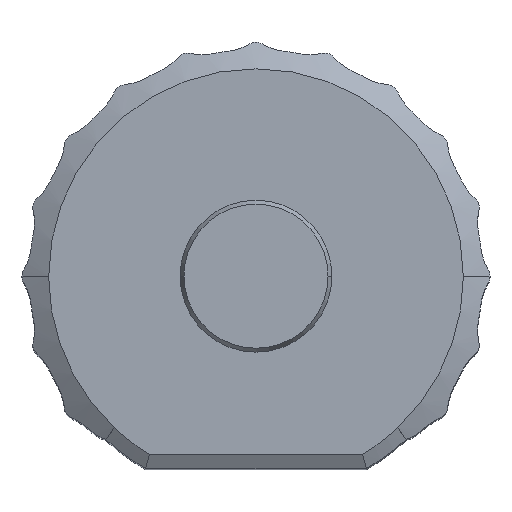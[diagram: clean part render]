
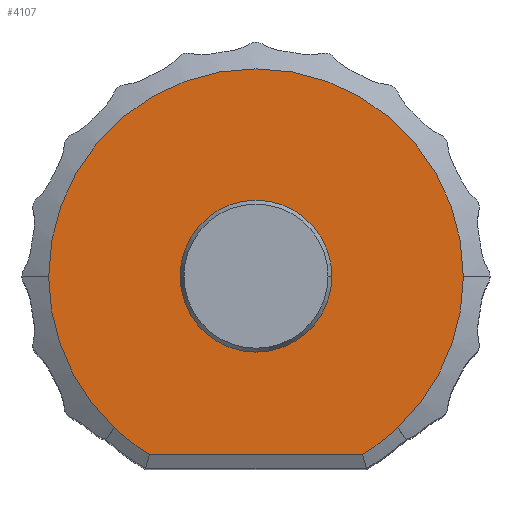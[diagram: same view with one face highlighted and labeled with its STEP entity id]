
A CAD part, top view. The second image highlights one B-rep face of the part: STEP entity #4107.
In plain terms, the highlighted planar face has unit normal (0, 0, 1).
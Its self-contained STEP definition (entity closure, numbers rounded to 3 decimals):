
#61 = DIRECTION ( 'NONE',  ( 1., 0., 0. ) ) ;
#115 = CARTESIAN_POINT ( 'NONE',  ( 4.3, 0., 0. ) ) ;
#389 = CIRCLE ( 'NONE', #428, 4.3 ) ;
#398 = FACE_BOUND ( 'NONE', #1727, .T. ) ;
#428 = AXIS2_PLACEMENT_3D ( 'NONE', #2848, #6985, #3439 ) ;
#669 = LINE ( 'NONE', #6547, #5801 ) ;
#682 = VERTEX_POINT ( 'NONE', #5720 ) ;
#686 = VECTOR ( 'NONE', #5317, 1000. ) ;
#852 = EDGE_CURVE ( 'NONE', #3852, #5476, #1803, .T. ) ;
#993 = AXIS2_PLACEMENT_3D ( 'NONE', #3105, #7249, #3702 ) ;
#1010 = ORIENTED_EDGE ( 'NONE', *, *, #1381, .T. ) ;
#1056 = DIRECTION ( 'NONE',  ( 0., 0., 1. ) ) ;
#1095 = AXIS2_PLACEMENT_3D ( 'NONE', #3531, #7697, #4127 ) ;
#1158 = CARTESIAN_POINT ( 'NONE',  ( 0., -3.696, 0. ) ) ;
#1196 = DIRECTION ( 'NONE',  ( 0., 0., -1. ) ) ;
#1381 = EDGE_CURVE ( 'NONE', #6744, #5537, #7278, .T. ) ;
#1462 = VERTEX_POINT ( 'NONE', #7419 ) ;
#1484 = DIRECTION ( 'NONE',  ( 0., 0., -1. ) ) ;
#1560 = VERTEX_POINT ( 'NONE', #7529 ) ;
#1618 = EDGE_CURVE ( 'NONE', #6744, #2152, #389, .T. ) ;
#1666 = CARTESIAN_POINT ( 'NONE',  ( 0., 0., 0. ) ) ;
#1727 = EDGE_LOOP ( 'NONE', ( #7655, #3673 ) ) ;
#1803 = CIRCLE ( 'NONE', #7548, 4.3 ) ;
#1994 = FACE_OUTER_BOUND ( 'NONE', #4233, .T. ) ;
#2060 = CIRCLE ( 'NONE', #5584, 4.306 ) ;
#2152 = VERTEX_POINT ( 'NONE', #6025 ) ;
#2396 = DIRECTION ( 'NONE',  ( -0.589, 0.808, 0. ) ) ;
#2528 = EDGE_CURVE ( 'NONE', #3561, #1560, #5441, .T. ) ;
#2563 = ORIENTED_EDGE ( 'NONE', *, *, #6756, .T. ) ;
#2808 = ORIENTED_EDGE ( 'NONE', *, *, #852, .F. ) ;
#2848 = CARTESIAN_POINT ( 'NONE',  ( 0., 0., 0. ) ) ;
#2890 = ORIENTED_EDGE ( 'NONE', *, *, #2528, .T. ) ;
#3105 = CARTESIAN_POINT ( 'NONE',  ( 0., 0., 0. ) ) ;
#3192 = CIRCLE ( 'NONE', #1095, 4.306 ) ;
#3282 = AXIS2_PLACEMENT_3D ( 'NONE', #6970, #3445, #7616 ) ;
#3439 = DIRECTION ( 'NONE',  ( -1., 0., 0. ) ) ;
#3445 = DIRECTION ( 'NONE',  ( 0., 0., 1. ) ) ;
#3494 = ORIENTED_EDGE ( 'NONE', *, *, #5616, .T. ) ;
#3531 = CARTESIAN_POINT ( 'NONE',  ( 0., 0., 0. ) ) ;
#3561 = VERTEX_POINT ( 'NONE', #6901 ) ;
#3603 = CARTESIAN_POINT ( 'NONE',  ( -3.115, -3.385, 0. ) ) ;
#3627 = DIRECTION ( 'NONE',  ( 0., 0., 1. ) ) ;
#3673 = ORIENTED_EDGE ( 'NONE', *, *, #4765, .F. ) ;
#3702 = DIRECTION ( 'NONE',  ( 1., 0., 0. ) ) ;
#3795 = VERTEX_POINT ( 'NONE', #4232 ) ;
#3852 = VERTEX_POINT ( 'NONE', #115 ) ;
#3889 = AXIS2_PLACEMENT_3D ( 'NONE', #5044, #1484, #5645 ) ;
#4015 = PLANE ( 'NONE',  #3282 ) ;
#4107 = ADVANCED_FACE ( 'NONE', ( #1994, #398 ), #4015, .T. ) ;
#4120 = VECTOR ( 'NONE', #6586, 1000. ) ;
#4123 = CIRCLE ( 'NONE', #993, 1.575 ) ;
#4127 = DIRECTION ( 'NONE',  ( 1., 0., 0. ) ) ;
#4147 = ORIENTED_EDGE ( 'NONE', *, *, #5152, .T. ) ;
#4232 = CARTESIAN_POINT ( 'NONE',  ( -1.575, 0., 0. ) ) ;
#4233 = EDGE_LOOP ( 'NONE', ( #1010, #3494, #2890, #2563, #4147, #2808, #6645, #4637 ) ) ;
#4312 = CIRCLE ( 'NONE', #7524, 1.575 ) ;
#4637 = ORIENTED_EDGE ( 'NONE', *, *, #1618, .F. ) ;
#4714 = EDGE_CURVE ( 'NONE', #1462, #3795, #4312, .T. ) ;
#4757 = CARTESIAN_POINT ( 'NONE',  ( 0., 0., 0. ) ) ;
#4765 = EDGE_CURVE ( 'NONE', #3795, #1462, #4123, .T. ) ;
#5044 = CARTESIAN_POINT ( 'NONE',  ( 0., 0., 0. ) ) ;
#5152 = EDGE_CURVE ( 'NONE', #682, #5476, #669, .T. ) ;
#5317 = DIRECTION ( 'NONE',  ( 1., 0., 0. ) ) ;
#5353 = DIRECTION ( 'NONE',  ( -1., 0., 0. ) ) ;
#5422 = CIRCLE ( 'NONE', #3889, 4.3 ) ;
#5441 = LINE ( 'NONE', #1158, #686 ) ;
#5476 = VERTEX_POINT ( 'NONE', #5696 ) ;
#5537 = VERTEX_POINT ( 'NONE', #6393 ) ;
#5584 = AXIS2_PLACEMENT_3D ( 'NONE', #1666, #1056, #7361 ) ;
#5616 = EDGE_CURVE ( 'NONE', #5537, #3561, #3192, .T. ) ;
#5645 = DIRECTION ( 'NONE',  ( -1., 0., 0. ) ) ;
#5696 = CARTESIAN_POINT ( 'NONE',  ( 2.937, -3.14, 0. ) ) ;
#5720 = CARTESIAN_POINT ( 'NONE',  ( 2.941, -3.145, 0. ) ) ;
#5801 = VECTOR ( 'NONE', #2396, 1000. ) ;
#5913 = EDGE_CURVE ( 'NONE', #2152, #3852, #5422, .T. ) ;
#6025 = CARTESIAN_POINT ( 'NONE',  ( -4.3, 0., 0. ) ) ;
#6393 = CARTESIAN_POINT ( 'NONE',  ( -2.941, -3.145, 0. ) ) ;
#6547 = CARTESIAN_POINT ( 'NONE',  ( 3.115, -3.385, 0. ) ) ;
#6584 = CARTESIAN_POINT ( 'NONE',  ( -2.937, -3.14, 0. ) ) ;
#6586 = DIRECTION ( 'NONE',  ( -0.589, -0.808, 0. ) ) ;
#6645 = ORIENTED_EDGE ( 'NONE', *, *, #5913, .F. ) ;
#6744 = VERTEX_POINT ( 'NONE', #6584 ) ;
#6756 = EDGE_CURVE ( 'NONE', #1560, #682, #2060, .T. ) ;
#6901 = CARTESIAN_POINT ( 'NONE',  ( -2.209, -3.696, 0. ) ) ;
#6970 = CARTESIAN_POINT ( 'NONE',  ( 0., 0., 0. ) ) ;
#6985 = DIRECTION ( 'NONE',  ( 0., 0., -1. ) ) ;
#7173 = CARTESIAN_POINT ( 'NONE',  ( 0., 0., 0. ) ) ;
#7249 = DIRECTION ( 'NONE',  ( 0., 0., 1. ) ) ;
#7278 = LINE ( 'NONE', #3603, #4120 ) ;
#7361 = DIRECTION ( 'NONE',  ( 1., 0., 0. ) ) ;
#7419 = CARTESIAN_POINT ( 'NONE',  ( 1.575, 0., 0. ) ) ;
#7524 = AXIS2_PLACEMENT_3D ( 'NONE', #7173, #3627, #61 ) ;
#7529 = CARTESIAN_POINT ( 'NONE',  ( 2.209, -3.696, 0. ) ) ;
#7548 = AXIS2_PLACEMENT_3D ( 'NONE', #4757, #1196, #5353 ) ;
#7616 = DIRECTION ( 'NONE',  ( 1., 0., 0. ) ) ;
#7655 = ORIENTED_EDGE ( 'NONE', *, *, #4714, .F. ) ;
#7697 = DIRECTION ( 'NONE',  ( 0., 0., 1. ) ) ;
